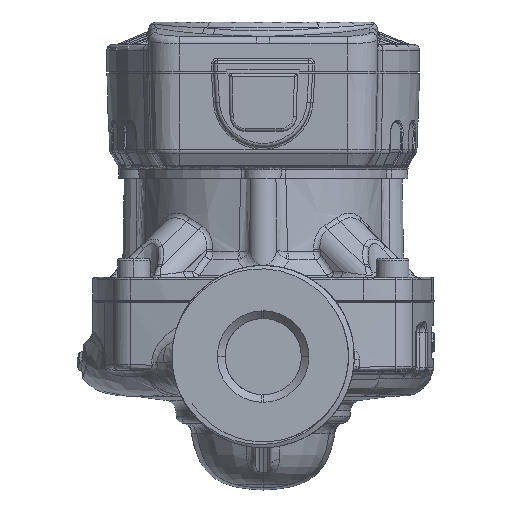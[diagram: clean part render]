
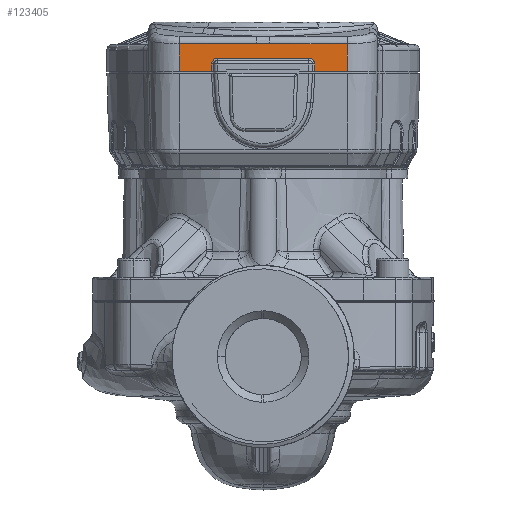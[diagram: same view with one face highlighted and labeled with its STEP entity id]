
A CAD part, left-side view. The second image highlights one B-rep face of the part: STEP entity #123405.
In plain terms, the highlighted planar face has unit normal (-1, 0, 0) as drawn and (0, 1, 0) by its records, which use the part's own axes.
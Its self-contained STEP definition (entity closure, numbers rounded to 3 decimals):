
#1830 = CARTESIAN_POINT ( 'NONE',  ( -11.999, 43., 85.527 ) ) ;
#1991 = CARTESIAN_POINT ( 'NONE',  ( 22., 43., 89.361 ) ) ;
#4508 = CARTESIAN_POINT ( 'NONE',  ( -13.499, 43., 82.027 ) ) ;
#5131 = EDGE_CURVE ( 'NONE', #74908, #149261, #109890, .T. ) ;
#5420 = VERTEX_POINT ( 'NONE', #4508 ) ;
#5964 = CIRCLE ( 'NONE', #101475, 1.5 ) ;
#6687 = ORIENTED_EDGE ( 'NONE', *, *, #97758, .T. ) ;
#8071 = VERTEX_POINT ( 'NONE', #98887 ) ;
#8488 = CARTESIAN_POINT ( 'NONE',  ( -11.999, 43., 85.527 ) ) ;
#9296 = ORIENTED_EDGE ( 'NONE', *, *, #44529, .F. ) ;
#11470 = LINE ( 'NONE', #63598, #93034 ) ;
#12060 = CARTESIAN_POINT ( 'NONE',  ( -13.499, 43., 82.027 ) ) ;
#13394 = ORIENTED_EDGE ( 'NONE', *, *, #76793, .F. ) ;
#14452 = VERTEX_POINT ( 'NONE', #134364 ) ;
#15516 = VERTEX_POINT ( 'NONE', #1830 ) ;
#16910 = VECTOR ( 'NONE', #97666, 1000. ) ;
#20354 = CARTESIAN_POINT ( 'NONE',  ( -13.499, 43., 84.027 ) ) ;
#20377 = EDGE_LOOP ( 'NONE', ( #13394, #44937, #71620, #6687, #162285, #24133, #129389, #36327, #9296, #69922, #103447, #67268 ) ) ;
#20772 = CARTESIAN_POINT ( 'NONE',  ( 22., 43., 82.027 ) ) ;
#23031 = LINE ( 'NONE', #153756, #34842 ) ;
#23764 = VERTEX_POINT ( 'NONE', #20354 ) ;
#23892 = EDGE_CURVE ( 'NONE', #102499, #66172, #53318, .T. ) ;
#24133 = ORIENTED_EDGE ( 'NONE', *, *, #150668, .T. ) ;
#26495 = FACE_OUTER_BOUND ( 'NONE', #20377, .T. ) ;
#26608 = VERTEX_POINT ( 'NONE', #162005 ) ;
#28462 = VERTEX_POINT ( 'NONE', #121399 ) ;
#30177 = DIRECTION ( 'NONE',  ( -1., 0., 0. ) ) ;
#30413 = CARTESIAN_POINT ( 'NONE',  ( 22., 43., 89.361 ) ) ;
#31273 = EDGE_CURVE ( 'NONE', #28462, #102499, #87754, .T. ) ;
#32979 = CARTESIAN_POINT ( 'NONE',  ( 1.756, 43., 89.361 ) ) ;
#33789 = DIRECTION ( 'NONE',  ( 0., 0., -1. ) ) ;
#34842 = VECTOR ( 'NONE', #59814, 1000. ) ;
#36327 = ORIENTED_EDGE ( 'NONE', *, *, #5131, .F. ) ;
#44529 = EDGE_CURVE ( 'NONE', #66172, #74908, #63755, .T. ) ;
#44937 = ORIENTED_EDGE ( 'NONE', *, *, #76454, .T. ) ;
#45799 = CIRCLE ( 'NONE', #141305, 1.5 ) ;
#45846 = CARTESIAN_POINT ( 'NONE',  ( -13.499, 43., 82.027 ) ) ;
#47247 = LINE ( 'NONE', #20772, #16910 ) ;
#49413 = EDGE_CURVE ( 'NONE', #28462, #8071, #47247, .T. ) ;
#52145 = DIRECTION ( 'NONE',  ( 1., 0., 0. ) ) ;
#52985 = CARTESIAN_POINT ( 'NONE',  ( 30., 43., -41.835 ) ) ;
#53318 = LINE ( 'NONE', #1991, #90997 ) ;
#53807 = DIRECTION ( 'NONE',  ( 0., 1., 0. ) ) ;
#53932 = DIRECTION ( 'NONE',  ( 1., 0., 0. ) ) ;
#54428 = DIRECTION ( 'NONE',  ( -1., 0., 0. ) ) ;
#59750 = DIRECTION ( 'NONE',  ( 1., 0., 0. ) ) ;
#59814 = DIRECTION ( 'NONE',  ( 0., 0., -1. ) ) ;
#59872 = VECTOR ( 'NONE', #54428, 1000. ) ;
#63598 = CARTESIAN_POINT ( 'NONE',  ( -22., 43., 89.361 ) ) ;
#63755 = LINE ( 'NONE', #115843, #128420 ) ;
#66172 = VERTEX_POINT ( 'NONE', #32979 ) ;
#67268 = ORIENTED_EDGE ( 'NONE', *, *, #49413, .T. ) ;
#67328 = AXIS2_PLACEMENT_3D ( 'NONE', #52985, #53807, #52145 ) ;
#68644 = VECTOR ( 'NONE', #113281, 1000. ) ;
#69922 = ORIENTED_EDGE ( 'NONE', *, *, #23892, .F. ) ;
#71620 = ORIENTED_EDGE ( 'NONE', *, *, #123916, .F. ) ;
#74908 = VERTEX_POINT ( 'NONE', #144905 ) ;
#74948 = CARTESIAN_POINT ( 'NONE',  ( 22., 43., 82.027 ) ) ;
#76454 = EDGE_CURVE ( 'NONE', #14452, #26608, #45799, .T. ) ;
#76793 = EDGE_CURVE ( 'NONE', #14452, #8071, #23031, .T. ) ;
#84891 = EDGE_CURVE ( 'NONE', #5420, #23764, #106529, .T. ) ;
#87113 = LINE ( 'NONE', #8488, #121820 ) ;
#87754 = LINE ( 'NONE', #74948, #92710 ) ;
#90684 = DIRECTION ( 'NONE',  ( -1., 0., 0. ) ) ;
#90997 = VECTOR ( 'NONE', #130279, 1000. ) ;
#92710 = VECTOR ( 'NONE', #98917, 1000. ) ;
#93034 = VECTOR ( 'NONE', #33789, 1000. ) ;
#93368 = VECTOR ( 'NONE', #90684, 1000. ) ;
#95829 = CARTESIAN_POINT ( 'NONE',  ( -22., 43., 82.027 ) ) ;
#97666 = DIRECTION ( 'NONE',  ( -1., 0., 0. ) ) ;
#97758 = EDGE_CURVE ( 'NONE', #15516, #23764, #5964, .T. ) ;
#98887 = CARTESIAN_POINT ( 'NONE',  ( 13.5, 43., 82.027 ) ) ;
#98917 = DIRECTION ( 'NONE',  ( 0., 0., 1. ) ) ;
#101475 = AXIS2_PLACEMENT_3D ( 'NONE', #144464, #130001, #115416 ) ;
#102499 = VERTEX_POINT ( 'NONE', #30413 ) ;
#103447 = ORIENTED_EDGE ( 'NONE', *, *, #31273, .F. ) ;
#106529 = LINE ( 'NONE', #45846, #68644 ) ;
#109890 = LINE ( 'NONE', #158678, #59872 ) ;
#113281 = DIRECTION ( 'NONE',  ( 0., 0., 1. ) ) ;
#114125 = CARTESIAN_POINT ( 'NONE',  ( -22., 43., 89.361 ) ) ;
#115416 = DIRECTION ( 'NONE',  ( 0., 0., 1. ) ) ;
#115843 = CARTESIAN_POINT ( 'NONE',  ( 1.756, 43., 89.361 ) ) ;
#121399 = CARTESIAN_POINT ( 'NONE',  ( 22., 43., 82.027 ) ) ;
#121820 = VECTOR ( 'NONE', #59750, 1000. ) ;
#123405 = ADVANCED_FACE ( 'NONE', ( #26495 ), #169196, .T. ) ;
#123916 = EDGE_CURVE ( 'NONE', #15516, #26608, #87113, .T. ) ;
#128420 = VECTOR ( 'NONE', #30177, 1000. ) ;
#129088 = VERTEX_POINT ( 'NONE', #95829 ) ;
#129389 = ORIENTED_EDGE ( 'NONE', *, *, #136353, .F. ) ;
#130001 = DIRECTION ( 'NONE',  ( 0., -1., 0. ) ) ;
#130279 = DIRECTION ( 'NONE',  ( -1., 0., 0. ) ) ;
#134364 = CARTESIAN_POINT ( 'NONE',  ( 13.5, 43., 84.027 ) ) ;
#136353 = EDGE_CURVE ( 'NONE', #149261, #129088, #11470, .T. ) ;
#141305 = AXIS2_PLACEMENT_3D ( 'NONE', #158168, #143687, #53932 ) ;
#143687 = DIRECTION ( 'NONE',  ( 0., -1., 0. ) ) ;
#144464 = CARTESIAN_POINT ( 'NONE',  ( -11.999, 43., 84.027 ) ) ;
#144905 = CARTESIAN_POINT ( 'NONE',  ( -1.756, 43., 89.361 ) ) ;
#149261 = VERTEX_POINT ( 'NONE', #114125 ) ;
#150668 = EDGE_CURVE ( 'NONE', #5420, #129088, #151439, .T. ) ;
#151439 = LINE ( 'NONE', #12060, #93368 ) ;
#153756 = CARTESIAN_POINT ( 'NONE',  ( 13.5, 43., 84.027 ) ) ;
#158168 = CARTESIAN_POINT ( 'NONE',  ( 12., 43., 84.027 ) ) ;
#158678 = CARTESIAN_POINT ( 'NONE',  ( -1.756, 43., 89.361 ) ) ;
#162005 = CARTESIAN_POINT ( 'NONE',  ( 12., 43., 85.527 ) ) ;
#162285 = ORIENTED_EDGE ( 'NONE', *, *, #84891, .F. ) ;
#169196 = PLANE ( 'NONE',  #67328 ) ;
